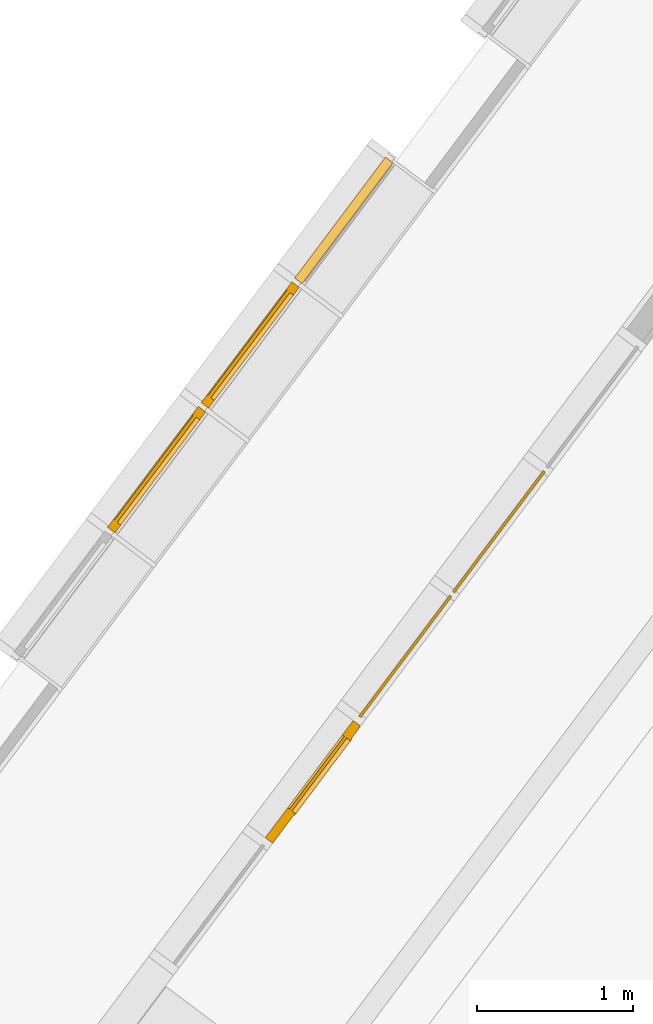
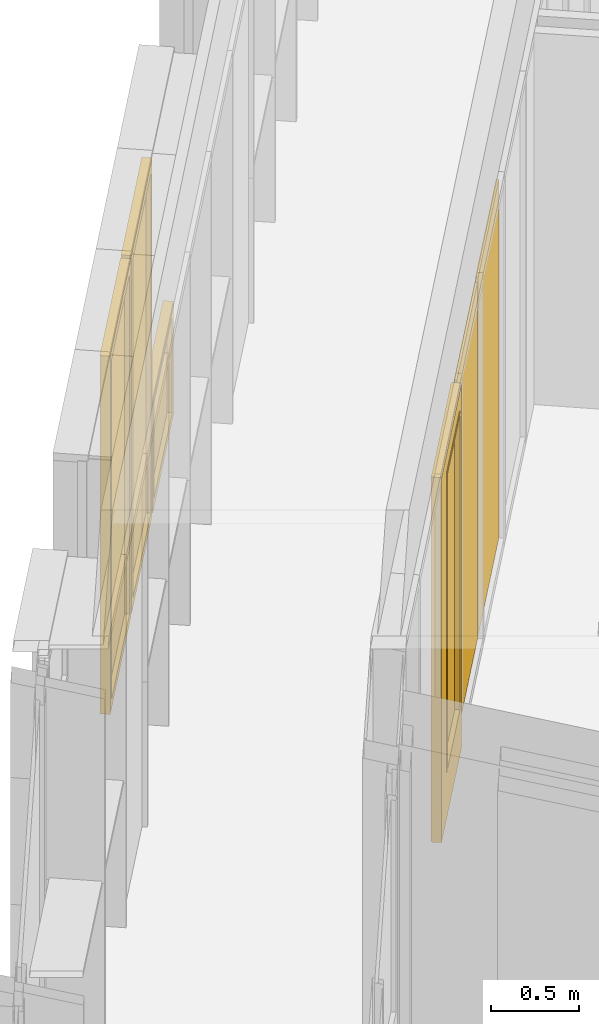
# One storey, part 189 of 243: 5 windows, 1 door, 2 elements without a shape of their own.
"""IFC2X3 building model written with IfcOpenShell, lengths in metres."""

from ifc_helpers import new_model, entity, si_unit, converted_unit, derived_unit, direction, frame, origin, origin_2d_with_axis, place, context, subcontext, project, spatial, rectangle, extrude, faceted_brep, source, transform, mapped, material, material_list, type_object, type_shapes, element, aggregate, save


model = new_model("IFC2X3")

# Units and contexts
model_context = context("Model", 3, precision=1e-05, world=origin(), true_north=direction((6.123031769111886e-17, 1.0)))
body_context = subcontext(model_context, "Body", "Model", "MODEL_VIEW")
ifc_project = project(units=[si_unit("LENGTHUNIT", "METRE"), si_unit("AREAUNIT", "SQUARE_METRE"), si_unit("VOLUMEUNIT", "CUBIC_METRE"), converted_unit("PLANEANGLEUNIT", "DEGREE", entity("IfcRatioMeasure", 0.017453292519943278), si_unit("PLANEANGLEUNIT", "RADIAN"), dimensions=[0, 0, 0, 0, 0, 0, 0]), si_unit("MASSUNIT", "GRAM", prefix="KILO"), derived_unit("MASSDENSITYUNIT", [(si_unit("MASSUNIT", "GRAM", prefix="KILO"), 1), (si_unit("LENGTHUNIT", "METRE"), -3)]), derived_unit("IONCONCENTRATIONUNIT", [(si_unit("MASSUNIT", "GRAM", prefix="KILO"), 1), (si_unit("LENGTHUNIT", "METRE"), -3)]), derived_unit("MOMENTOFINERTIAUNIT", [(si_unit("LENGTHUNIT", "METRE"), 4)]), si_unit("TIMEUNIT", "SECOND"), si_unit("FREQUENCYUNIT", "HERTZ"), si_unit("THERMODYNAMICTEMPERATUREUNIT", "DEGREE_CELSIUS"), derived_unit("THERMALTRANSMITTANCEUNIT", [(si_unit("MASSUNIT", "GRAM", prefix="KILO"), 1), (si_unit("THERMODYNAMICTEMPERATUREUNIT", "KELVIN"), -1), (si_unit("TIMEUNIT", "SECOND"), -3)]), derived_unit("THERMALCONDUCTANCEUNIT", [(si_unit("MASSUNIT", "GRAM", prefix="KILO"), 1), (si_unit("THERMODYNAMICTEMPERATUREUNIT", "KELVIN"), -1), (si_unit("TIMEUNIT", "SECOND"), -3), (si_unit("LENGTHUNIT", "METRE"), 1)]), derived_unit("VOLUMETRICFLOWRATEUNIT", [(si_unit("LENGTHUNIT", "METRE"), 3), (si_unit("TIMEUNIT", "SECOND"), -1)]), derived_unit("MASSFLOWRATEUNIT", [(si_unit("MASSUNIT", "GRAM", prefix="KILO"), 1), (si_unit("TIMEUNIT", "SECOND"), -1)]), derived_unit("ROTATIONALFREQUENCYUNIT", [(si_unit("TIMEUNIT", "SECOND"), -1)]), si_unit("ELECTRICCURRENTUNIT", "AMPERE"), si_unit("ELECTRICVOLTAGEUNIT", "VOLT"), si_unit("POWERUNIT", "WATT"), si_unit("FORCEUNIT", "NEWTON", prefix="KILO"), si_unit("ILLUMINANCEUNIT", "LUX"), si_unit("LUMINOUSFLUXUNIT", "LUMEN"), si_unit("LUMINOUSINTENSITYUNIT", "CANDELA"), derived_unit("USERDEFINED", [(si_unit("MASSUNIT", "GRAM", prefix="KILO"), -1), (si_unit("LENGTHUNIT", "METRE"), -2), (si_unit("TIMEUNIT", "SECOND"), 3), (si_unit("LUMINOUSFLUXUNIT", "LUMEN"), 1)]), derived_unit("USERDEFINED", [(si_unit("MASSUNIT", "GRAM", prefix="KILO"), 1), (si_unit("TIMEUNIT", "SECOND"), -3), (si_unit("LENGTHUNIT", "METRE"), 3), (si_unit("ELECTRICCURRENTUNIT", "AMPERE"), -2)]), derived_unit("SOUNDPOWERUNIT", [(si_unit("MASSUNIT", "GRAM", prefix="KILO"), 1), (si_unit("TIMEUNIT", "SECOND"), -3), (si_unit("LENGTHUNIT", "METRE"), 2)]), derived_unit("SOUNDPRESSUREUNIT", [(si_unit("MASSUNIT", "GRAM", prefix="KILO"), 1), (si_unit("LENGTHUNIT", "METRE"), -1), (si_unit("TIMEUNIT", "SECOND"), -2)]), derived_unit("LINEARVELOCITYUNIT", [(si_unit("LENGTHUNIT", "METRE"), 1), (si_unit("TIMEUNIT", "SECOND"), -1)]), si_unit("PRESSUREUNIT", "PASCAL"), derived_unit("USERDEFINED", [(si_unit("MASSUNIT", "GRAM", prefix="KILO"), 1), (si_unit("LENGTHUNIT", "METRE"), -2), (si_unit("TIMEUNIT", "SECOND"), -2)]), derived_unit("LINEARFORCEUNIT", [(si_unit("MASSUNIT", "GRAM", prefix="KILO"), 1), (si_unit("TIMEUNIT", "SECOND"), -2)]), derived_unit("PLANARFORCEUNIT", [(si_unit("MASSUNIT", "GRAM", prefix="KILO"), 1), (si_unit("LENGTHUNIT", "METRE"), -1), (si_unit("TIMEUNIT", "SECOND"), -2)]), derived_unit("SPECIFICHEATCAPACITYUNIT", [(si_unit("THERMODYNAMICTEMPERATUREUNIT", "KELVIN"), -1), (si_unit("LENGTHUNIT", "METRE"), 2), (si_unit("TIMEUNIT", "SECOND"), -2)]), derived_unit("HEATINGVALUEUNIT", [(si_unit("LENGTHUNIT", "METRE"), 2), (si_unit("TIMEUNIT", "SECOND"), -2)]), derived_unit("VAPORPERMEABILITYUNIT", [(si_unit("LENGTHUNIT", "METRE"), -1), (si_unit("TIMEUNIT", "SECOND"), 1)]), derived_unit("DYNAMICVISCOSITYUNIT", [(si_unit("MASSUNIT", "GRAM", prefix="KILO"), 1), (si_unit("TIMEUNIT", "SECOND"), -1), (si_unit("LENGTHUNIT", "METRE"), -1)]), derived_unit("THERMALEXPANSIONCOEFFICIENTUNIT", [(si_unit("THERMODYNAMICTEMPERATUREUNIT", "KELVIN"), -1)]), derived_unit("MODULUSOFELASTICITYUNIT", [(si_unit("MASSUNIT", "GRAM", prefix="KILO"), 1), (si_unit("LENGTHUNIT", "METRE"), -1), (si_unit("TIMEUNIT", "SECOND"), -2)]), derived_unit("ISOTHERMALMOISTURECAPACITYUNIT", [(si_unit("LENGTHUNIT", "METRE"), 3), (si_unit("MASSUNIT", "GRAM", prefix="KILO"), -1)]), derived_unit("MOISTUREDIFFUSIVITYUNIT", [(si_unit("TIMEUNIT", "SECOND"), -1), (si_unit("LENGTHUNIT", "METRE"), 2)])], contexts=[model_context])

# Site, building, storey
site_placement = place(None, frame((0.0, 0.0, 235.0), z_axis=(0.0, 0.0, 1.0), x_axis=(-0.7996477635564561, 0.6004693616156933, 0.0)))
site = spatial("IfcSite", under=ifc_project, at=site_placement, Name="Default", CompositionType="ELEMENT")
building_placement = place(site_placement, origin())
building = spatial("IfcBuilding", under=site, at=building_placement, CompositionType="ELEMENT")
storey_placement = place(building_placement, origin())
storey = spatial("IfcBuildingStorey", under=building, at=storey_placement, Name="P0- Escola", CompositionType="ELEMENT", Elevation=0.0)

# Curtain wall, windows, door
curtain_wall_type_1 = type_object("IfcCurtainWallType", Name="Muro cortina:MC- INT- a1", PredefinedType="NOTDEFINED")
curtain_wall_1_placement = place(storey_placement, origin())
curtain_wall_1 = element("IfcCurtainWall", 1, at=curtain_wall_1_placement, inside=storey, type_object=curtain_wall_type_1, Name="Muro cortina:MC- INT- a1", ObjectType="Muro cortina:MC- INT- a1")
ifc_material_1 = material(Name="_Vidre")
window_style_1 = type_object("IfcWindowStyle", Name="MC- Fusta- vidre fix:MC- Fusta- vidre fix", ConstructionType="NOTDEFINED", OperationType="NOTDEFINED", ParameterTakesPrecedence=False, Sizeable=False, material=ifc_material_1)
shared_shape_1 = source(origin(), body_context, "Body", "SweptSolid", [
    extrude(rectangle(XDim=0.9699999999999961, YDim=0.015999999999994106, at=origin_2d_with_axis()), frame((0.0, 0.0, 0.0), z_axis=(0.0, 0.0, 1.0), x_axis=(-1.0, 0.0, 0.0)), (0.0, 0.0, 1.0), 2.475),
])
type_shapes(window_style_1, [shared_shape_1])
window_1_placement = place(curtain_wall_1_placement, frame((47.32014768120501, -27.915189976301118, 0.045000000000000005), z_axis=(0.0, 0.0, 1.0), x_axis=(0.0, -1.0, 0.0)))
window_1 = element("IfcWindow", 2, at=window_1_placement, type_object=window_style_1, material=ifc_material_1, Name="MC- Fusta- vidre fix:MC- Fusta- vidre fix", ObjectType="MC- Fusta- vidre fix:MC- Fusta- vidre fix", OverallHeight=2.475, OverallWidth=0.9699999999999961, context=body_context, shape_type="MappedRepresentation", body=[
    mapped(shared_shape_1, transform((0.0, 0.0, 0.0), scale=1.0)),
])
ifc_material_2 = material(Name="_Fusta massisa- T1")
ifc_material_list_1 = material_list([ifc_material_2, ifc_material_1])
door_style = type_object("IfcDoorStyle", Name="MC- Fusta- conjunt porta:MC- Fusta- conjunt Porta aules", ConstructionType="NOTDEFINED", OperationType="NOTDEFINED", ParameterTakesPrecedence=False, Sizeable=False, material=ifc_material_list_1)
shared_shape_2 = source(origin(), body_context, "Body", "Brep", [
    faceted_brep([(-0.24500000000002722, -0.04499999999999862, 2.3950000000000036), (-0.24500000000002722, -0.014999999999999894, 2.3950000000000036), (-0.24500000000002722, -0.01499999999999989, 0.3299999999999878), (-0.24500000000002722, -0.04499999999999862, 0.3299999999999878), (0.37000000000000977, -0.01499999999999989, 0.3299999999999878), (0.37000000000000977, -0.04499999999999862, 0.3299999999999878), (0.37000000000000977, -0.01499999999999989, 2.3950000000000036), (0.37000000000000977, -0.04499999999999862, 2.3950000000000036), (-0.23000000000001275, -0.014999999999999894, 2.380000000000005), (-0.23000000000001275, -0.014999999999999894, 0.3449999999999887), (0.3549999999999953, -0.014999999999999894, 0.3449999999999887), (0.3549999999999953, -0.014999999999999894, 2.380000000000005), (-0.23000000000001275, -0.04499999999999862, 2.380000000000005), (0.3549999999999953, -0.04499999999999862, 2.380000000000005), (0.3549999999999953, -0.04499999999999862, 0.3449999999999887), (-0.23000000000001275, -0.04499999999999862, 0.3449999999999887)], [[[0, 1, 2, 3]], [[3, 2, 4, 5]], [[5, 4, 6, 7]], [[8, 9, 10, 11], [1, 6, 4, 2]], [[12, 13, 14, 15], [0, 3, 5, 7]], [[15, 9, 8, 12]], [[14, 10, 9, 15]], [[13, 11, 10, 14]], [[7, 6, 1, 0]], [[12, 8, 11, 13]]], outer=[[True], [True], [True], [False, True], [False, True], [True], [True], [True], [True], [True]]),
    faceted_brep([(-0.4399999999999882, 0.01999999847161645, 0.0), (0.4399999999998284, 0.019999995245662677, 0.0), (0.4399999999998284, -0.010000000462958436, 0.0), (0.4549999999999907, -0.010000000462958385, 0.0), (0.4549999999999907, -0.0399999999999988, 0.0), (-0.45500000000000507, -0.03999999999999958, 0.0), (-0.45500000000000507, -0.010000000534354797, 0.0), (-0.4399999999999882, -0.010000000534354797, 0.0), (-0.45500000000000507, -0.03999999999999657, 2.5050000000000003), (0.4549999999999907, -0.03999999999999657, 2.5050000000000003), (-0.2450000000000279, -0.039999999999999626, 0.3300000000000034), (-0.2450000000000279, -0.040000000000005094, 2.394999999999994), (0.3700000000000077, -0.0399999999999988, 2.394999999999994), (0.3700000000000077, -0.039999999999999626, 0.3300000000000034), (-0.4550000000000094, -0.010000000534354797, 2.5050000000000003), (0.4549999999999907, -0.010000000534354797, 2.5050000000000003), (-0.4399999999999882, 0.019999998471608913, 2.4899999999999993), (-0.4399999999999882, -0.010000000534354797, 2.4899999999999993), (0.4399999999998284, -0.010000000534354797, 2.4899999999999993), (0.4399999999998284, 0.019999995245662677, 2.4899999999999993), (0.3549999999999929, 0.019999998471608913, 0.3450000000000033), (0.3549999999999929, 0.019999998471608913, 2.379999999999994), (-0.2300000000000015, 0.019999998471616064, 2.379999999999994), (-0.2300000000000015, 0.019999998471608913, 0.3450000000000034), (-0.2300000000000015, 0.005000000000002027, 0.3450000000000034), (0.3549999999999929, 0.005000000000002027, 0.3450000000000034), (-0.2300000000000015, 0.005000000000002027, 2.379999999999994), (0.3549999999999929, 0.004999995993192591, 2.379999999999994), (0.3700000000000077, 0.005000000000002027, 0.3300000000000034), (0.3700000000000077, 0.005000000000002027, 2.394999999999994), (-0.24500000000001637, 0.005000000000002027, 2.394999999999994), (-0.2450000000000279, 0.005000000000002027, 0.3300000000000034), (-0.24500000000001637, 0.004999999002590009, 0.3300000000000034), (-0.24500000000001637, 0.004999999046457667, 2.394999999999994), (0.3549999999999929, 0.019999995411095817, 2.379999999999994), (-0.2300000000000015, 0.004999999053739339, 2.379999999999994), (0.3700000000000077, 0.004999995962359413, 2.394999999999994)], [[[0, 1, 2, 3, 4, 5, 6, 7]], [[8, 5, 4, 9], [10, 11, 12, 13]], [[8, 14, 6, 5]], [[15, 9, 4, 3]], [[16, 0, 7, 17]], [[14, 15, 3, 2, 18, 17, 7, 6]], [[18, 2, 1, 19]], [[20, 21, 22, 23], [16, 19, 1, 0]], [[23, 24, 25, 20]], [[23, 22, 26, 24]], [[25, 27, 21, 20]], [[24, 26, 27, 25], [28, 29, 30, 31]], [[13, 28, 32, 10]], [[31, 33, 11, 10]], [[13, 12, 29, 28]], [[9, 15, 14, 8]], [[17, 18, 19, 16]], [[34, 27, 35, 22]], [[11, 30, 36, 12]]], outer=[[True], [True, False], [True], [True], [True], [True], [True], [False, True], [True], [True], [True], [False, True], [True], [True], [True], [True], [True], [True], [True]]),
    faceted_brep([(0.3700000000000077, 0.004999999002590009, 0.3300000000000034), (0.3700000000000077, -0.0149999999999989, 0.3300000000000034), (-0.24500000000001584, -0.014999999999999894, 0.3300000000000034), (-0.24500000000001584, 0.004999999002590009, 0.3300000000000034), (0.3700000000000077, 0.004999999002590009, 2.3950000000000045), (-0.24500000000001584, 0.004999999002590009, 2.3950000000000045), (-0.24500000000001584, -0.014999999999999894, 2.3950000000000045), (0.3700000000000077, -0.0149999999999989, 2.3950000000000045)], [[[0, 1, 2, 3]], [[4, 0, 3, 5]], [[5, 3, 2, 6]], [[6, 2, 1, 7]], [[7, 1, 0, 4]], [[4, 5, 6, 7]]]),
    faceted_brep([(-0.46500000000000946, -0.03999999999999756, 0.0), (-0.46500000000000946, -0.035999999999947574, 0.0), (-0.469999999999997, -0.035999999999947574, 0.0), (-0.469999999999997, 0.016000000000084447, 0.0), (-0.46500000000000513, 0.016000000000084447, 0.0), (-0.46500000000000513, 0.02000000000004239, 0.0), (-0.44000000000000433, 0.02000000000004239, 0.0), (-0.44000000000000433, -0.00999999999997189, 0.0), (-0.4550000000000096, -0.00999999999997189, 0.0), (-0.4550000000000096, -0.03999999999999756, 0.0), (-0.45500000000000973, -0.03999999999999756, 2.5050000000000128), (0.45500000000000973, -0.03999999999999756, 2.5050000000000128), (0.45500000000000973, -0.03999999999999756, 0.0), (0.46500000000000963, -0.03999999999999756, 0.0), (0.46500000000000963, -0.03999999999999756, 2.5150000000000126), (-0.4650000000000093, -0.03999999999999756, 2.515000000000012), (-0.4550000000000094, -0.00999999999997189, 2.5050000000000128), (-0.4400000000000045, -0.00999999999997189, 2.4900000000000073), (0.4400000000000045, -0.00999999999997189, 2.4900000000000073), (0.4400000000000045, -0.00999999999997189, 0.0), (0.45500000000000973, -0.00999999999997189, 0.0), (0.45500000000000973, -0.00999999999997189, 2.5050000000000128), (-0.4400000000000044, 0.02000000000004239, 2.4900000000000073), (-0.4650000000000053, 0.02000000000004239, 2.515000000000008), (0.4650000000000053, 0.02000000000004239, 2.515000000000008), (0.4650000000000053, 0.02000000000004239, 0.0), (0.4400000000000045, 0.02000000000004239, 0.0), (0.4400000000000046, 0.02000000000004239, 2.4900000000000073), (-0.46500000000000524, 0.016000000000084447, 2.515000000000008), (-0.4699999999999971, 0.016000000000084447, 2.52), (0.4699999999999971, 0.016000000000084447, 2.52), (0.4699999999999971, 0.016000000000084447, 0.0), (0.4650000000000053, 0.016000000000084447, 0.0), (0.4650000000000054, 0.016000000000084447, 2.515000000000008), (-0.46999999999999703, -0.035999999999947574, 2.52), (-0.46500000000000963, -0.035999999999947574, 2.5150000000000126), (0.46500000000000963, -0.035999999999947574, 2.5150000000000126), (0.46500000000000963, -0.035999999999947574, 0.0), (0.4699999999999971, -0.035999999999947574, 0.0), (0.46999999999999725, -0.035999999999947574, 2.52)], [[[0, 1, 2, 3, 4, 5, 6, 7, 8, 9]], [[9, 10, 11, 12, 13, 14, 15, 0]], [[8, 16, 10, 9]], [[7, 17, 18, 19, 20, 21, 16, 8]], [[6, 22, 17, 7]], [[5, 23, 24, 25, 26, 27, 22, 6]], [[4, 28, 23, 5]], [[3, 29, 30, 31, 32, 33, 28, 4]], [[2, 34, 29, 3]], [[1, 35, 36, 37, 38, 39, 34, 2]], [[0, 15, 35, 1]], [[14, 13, 37, 36]], [[13, 12, 20, 19, 26, 25, 32, 31, 38, 37]], [[21, 20, 12, 11]], [[27, 26, 19, 18]], [[33, 32, 25, 24]], [[39, 38, 31, 30]], [[16, 21, 11, 10]], [[22, 27, 18, 17]], [[28, 33, 24, 23]], [[34, 39, 30, 29]], [[15, 14, 36, 35]]]),
])
type_shapes(door_style, [shared_shape_2])
door_placement = place(curtain_wall_1_placement, frame((47.320147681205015, -25.91518997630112, 0.0), z_axis=(0.0, 0.0, 1.0), x_axis=(0.0, -1.0, 0.0)))
door = element("IfcDoor", 3, at=door_placement, type_object=door_style, material=ifc_material_list_1, Name="MC- Fusta- conjunt porta:MC- Fusta- conjunt Porta aules", ObjectType="MC- Fusta- conjunt porta:MC- Fusta- conjunt Porta aules", OverallHeight=2.52, OverallWidth=0.9399999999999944, context=body_context, shape_type="MappedRepresentation", body=[
    mapped(shared_shape_2, transform((0.0, 0.0, 0.0), scale=1.0)),
])
window_style_2 = type_object("IfcWindowStyle", Name="MC- Fusta- vidre fix:MC- Fusta- vidre fix", ConstructionType="NOTDEFINED", OperationType="NOTDEFINED", ParameterTakesPrecedence=False, Sizeable=False, material=ifc_material_1)
shared_shape_3 = source(origin(), body_context, "Body", "SweptSolid", [
    extrude(rectangle(XDim=0.9699999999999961, YDim=0.015999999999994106, at=origin_2d_with_axis()), frame((0.0, 0.0, 0.0), z_axis=(0.0, 0.0, 1.0), x_axis=(-1.0, 0.0, 0.0)), (0.0, 0.0, 1.0), 2.46),
])
type_shapes(window_style_2, [shared_shape_3])
window_2_placement = place(curtain_wall_1_placement, frame((47.320147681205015, -26.915189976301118, 0.045000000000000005), z_axis=(0.0, 0.0, 1.0), x_axis=(0.0, -1.0, 0.0)))
window_2 = element("IfcWindow", 4, at=window_2_placement, type_object=window_style_2, material=ifc_material_1, Name="MC- Fusta- vidre fix:MC- Fusta- vidre fix", ObjectType="MC- Fusta- vidre fix:MC- Fusta- vidre fix", OverallHeight=2.46, OverallWidth=0.9699999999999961, context=body_context, shape_type="MappedRepresentation", body=[
    mapped(shared_shape_3, transform((0.0, 0.0, 0.0), scale=1.0)),
])
aggregate(curtain_wall_1, [door, window_2, window_1])

# Curtain wall, windows
curtain_wall_type_2 = type_object("IfcCurtainWallType", Name="Muro cortina:MC- EXT- MC5", PredefinedType="NOTDEFINED")
curtain_wall_2_placement = place(storey_placement, origin())
curtain_wall_2 = element("IfcCurtainWall", 5, at=curtain_wall_2_placement, inside=storey, type_object=curtain_wall_type_2, Name="Muro cortina:MC- EXT- MC5", ObjectType="Muro cortina:MC- EXT- MC5")
ifc_material_3 = material(Name="_Alumini- T1- Perfil")
ifc_material_list_2 = material_list([ifc_material_1, ifc_material_3])
window_style_3 = type_object("IfcWindowStyle", Name="MC- Alu- Conjunt vidre fix- 62x60 cm:MC- Alu- Conjunt vidre fix- 62x60 cm", ConstructionType="NOTDEFINED", OperationType="NOTDEFINED", ParameterTakesPrecedence=False, Sizeable=False, material=ifc_material_list_2)
shared_shape_4 = source(origin(), body_context, "Body", "Brep", [
    faceted_brep([(-0.43619328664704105, -0.007600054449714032, 0.048806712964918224), (0.43619328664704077, -0.007600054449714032, 0.048806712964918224), (0.43619328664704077, -0.03160022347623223, 0.048806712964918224), (-0.43619328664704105, -0.03160022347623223, 0.048806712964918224), (-0.43619328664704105, -0.007600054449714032, 2.422449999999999), (0.43619328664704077, -0.007600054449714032, 2.422449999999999), (0.43619328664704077, -0.03160022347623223, 2.422449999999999), (-0.43619328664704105, -0.03160022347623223, 2.422449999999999)], [[[0, 1, 2, 3]], [[4, 5, 1, 0]], [[5, 6, 2, 1]], [[6, 7, 3, 2]], [[7, 4, 0, 3]], [[4, 7, 6, 5]]]),
    faceted_brep([(-0.4849999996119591, -0.05999999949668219, 2.471449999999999), (-0.4849999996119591, 0.0, 2.471449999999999), (-0.4849999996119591, 0.0, 0.0), (-0.48499999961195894, -0.05999999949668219, 0.0), (-0.4221931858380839, 0.0, 2.408643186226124), (-0.4221931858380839, 0.0, 0.06280681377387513), (0.42219318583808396, 0.0, 0.06280681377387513), (0.422193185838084, 0.0, 2.408643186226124), (0.4849999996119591, 0.0, 2.471449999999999), (0.4849999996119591, 0.0, 0.0), (0.48499999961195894, -0.05999999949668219, 0.0), (0.4849999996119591, -0.05999999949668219, 2.471449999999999), (0.42219603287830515, -0.05999999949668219, 2.408646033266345), (0.42219603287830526, -0.05999999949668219, 0.06280396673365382), (-0.42219603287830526, -0.05999999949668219, 0.06280396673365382), (-0.42219603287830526, -0.05999999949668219, 2.4086460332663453), (-0.42219603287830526, -0.03160022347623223, 2.4086460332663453), (-0.4221960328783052, -0.03160022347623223, 0.06280396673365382), (0.4221960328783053, -0.03160022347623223, 0.06280396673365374), (0.42219603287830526, -0.03160022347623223, 2.4086460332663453), (0.43619328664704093, -0.03160022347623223, 2.422643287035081), (0.43619328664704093, -0.03160022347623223, 0.048806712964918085), (-0.4361932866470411, -0.03160022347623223, 0.04880671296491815), (-0.43619328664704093, -0.03160022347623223, 2.422643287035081), (-0.43619328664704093, -0.007600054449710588, 2.422643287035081), (-0.4361932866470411, -0.007600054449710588, 0.04880671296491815), (0.43619328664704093, -0.007600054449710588, 0.048806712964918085), (0.43619328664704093, -0.007600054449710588, 2.422643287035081), (0.42219318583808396, -0.007600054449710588, 2.408643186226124), (0.42219318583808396, -0.007600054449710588, 0.06280681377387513), (-0.42219318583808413, -0.007600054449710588, 0.06280681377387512), (-0.4221931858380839, -0.007600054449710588, 2.408643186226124)], [[[0, 1, 2, 3]], [[4, 5, 6, 7], [8, 9, 2, 1]], [[3, 2, 9, 10]], [[0, 3, 10, 11], [12, 13, 14, 15]], [[16, 15, 14, 17]], [[17, 14, 13, 18]], [[16, 17, 18, 19], [20, 21, 22, 23]], [[24, 23, 22, 25]], [[25, 22, 21, 26]], [[24, 25, 26, 27], [28, 29, 30, 31]], [[4, 31, 30, 5]], [[5, 30, 29, 6]], [[10, 9, 8, 11]], [[18, 13, 12, 19]], [[26, 21, 20, 27]], [[6, 29, 28, 7]], [[11, 8, 1, 0]], [[19, 12, 15, 16]], [[27, 20, 23, 24]], [[7, 28, 31, 4]]], outer=[[True], [False, True], [True], [True, False], [True], [True], [False, True], [True], [True], [True, False], [True], [True], [True], [True], [True], [True], [True], [True], [True], [True]]),
])
type_shapes(window_style_3, [shared_shape_4])
window_3_placement = place(curtain_wall_2_placement, frame((49.345147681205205, -26.91519175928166, 0.03229999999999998), z_axis=(0.0, 0.0, 1.0), x_axis=(0.0, -1.0, 0.0)))
window_3 = element("IfcWindow", 6, at=window_3_placement, type_object=window_style_3, material=ifc_material_list_2, Name="MC- Alu- Conjunt vidre fix- 62x60 cm:MC- Alu- Conjunt vidre fix- 62x60 cm", ObjectType="MC- Alu- Conjunt vidre fix- 62x60 cm:MC- Alu- Conjunt vidre fix- 62x60 cm", OverallHeight=2.471449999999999, OverallWidth=0.9699999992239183, context=body_context, shape_type="MappedRepresentation", body=[
    mapped(shared_shape_4, transform((0.0, 0.0, 0.0), scale=1.0)),
])
window_4_placement = place(curtain_wall_2_placement, frame((49.345147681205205, -27.91519175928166, 0.03229999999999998), z_axis=(0.0, 0.0, 1.0), x_axis=(0.0, -1.0, 0.0)))
window_4 = element("IfcWindow", 7, at=window_4_placement, type_object=window_style_3, material=ifc_material_list_2, Name="MC- Alu- Conjunt vidre fix- 62x60 cm:MC- Alu- Conjunt vidre fix- 62x60 cm", ObjectType="MC- Alu- Conjunt vidre fix- 62x60 cm:MC- Alu- Conjunt vidre fix- 62x60 cm", OverallHeight=2.471449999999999, OverallWidth=0.9699999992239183, context=body_context, shape_type="MappedRepresentation", body=[
    mapped(shared_shape_4, transform((0.0, 0.0, 0.0), scale=1.0)),
])
window_style_4 = type_object("IfcWindowStyle", Name="MC- Alu- Conjunt vidre fix- 62x60 cm:MC- Alu- Conjunt vidre fix- 62x60 cm", ConstructionType="NOTDEFINED", OperationType="NOTDEFINED", ParameterTakesPrecedence=False, Sizeable=False, material=ifc_material_list_2)
shared_shape_5 = source(origin(), body_context, "Body", "Brep", [
    faceted_brep([(-0.43619328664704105, -0.007600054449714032, 0.048806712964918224), (0.43619328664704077, -0.007600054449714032, 0.048806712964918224), (0.43619328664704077, -0.03160022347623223, 0.048806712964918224), (-0.43619328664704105, -0.03160022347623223, 0.048806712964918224), (-0.43619328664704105, -0.007600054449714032, 0.7387000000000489), (0.43619328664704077, -0.007600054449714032, 0.7387000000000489), (0.43619328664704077, -0.03160022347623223, 0.7387000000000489), (-0.43619328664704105, -0.03160022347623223, 0.7387000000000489)], [[[0, 1, 2, 3]], [[4, 5, 1, 0]], [[5, 6, 2, 1]], [[6, 7, 3, 2]], [[7, 4, 0, 3]], [[4, 7, 6, 5]]]),
    faceted_brep([(-0.4849999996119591, -0.05999999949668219, 0.7877000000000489), (-0.4849999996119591, 0.0, 0.7877000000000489), (-0.4849999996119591, 0.0, 0.0), (-0.4849999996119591, -0.05999999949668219, 0.0), (-0.422193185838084, 0.0, 0.7248931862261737), (-0.4221931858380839, 0.0, 0.06280681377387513), (0.42219318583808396, 0.0, 0.06280681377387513), (0.42219318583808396, 0.0, 0.7248931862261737), (0.4849999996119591, 0.0, 0.7877000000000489), (0.4849999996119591, 0.0, 0.0), (0.4849999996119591, -0.05999999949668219, 0.0), (0.4849999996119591, -0.05999999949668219, 0.7877000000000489), (0.4221960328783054, -0.05999999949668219, 0.7248960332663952), (0.4221960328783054, -0.05999999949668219, 0.0628039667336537), (-0.4221960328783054, -0.05999999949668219, 0.0628039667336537), (-0.4221960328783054, -0.05999999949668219, 0.7248960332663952), (-0.4221960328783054, -0.03160022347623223, 0.7248960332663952), (-0.4221960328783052, -0.03160022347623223, 0.06280396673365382), (0.4221960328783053, -0.03160022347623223, 0.06280396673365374), (0.42219603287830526, -0.03160022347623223, 0.7248960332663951), (0.43619328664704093, -0.03160022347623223, 0.7388932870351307), (0.43619328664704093, -0.03160022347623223, 0.048806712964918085), (-0.43619328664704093, -0.03160022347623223, 0.04880671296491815), (-0.43619328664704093, -0.03160022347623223, 0.7388932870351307), (-0.43619328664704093, -0.007600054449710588, 0.7388932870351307), (-0.43619328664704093, -0.007600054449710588, 0.04880671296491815), (0.43619328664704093, -0.007600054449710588, 0.048806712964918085), (0.43619328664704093, -0.007600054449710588, 0.7388932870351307), (0.42219318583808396, -0.007600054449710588, 0.7248931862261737), (0.42219318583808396, -0.007600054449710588, 0.06280681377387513), (-0.42219318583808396, -0.007600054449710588, 0.06280681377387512), (-0.42219318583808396, -0.007600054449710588, 0.7248931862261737)], [[[0, 1, 2, 3]], [[4, 5, 6, 7], [8, 9, 2, 1]], [[3, 2, 9, 10]], [[0, 3, 10, 11], [12, 13, 14, 15]], [[16, 15, 14, 17]], [[17, 14, 13, 18]], [[16, 17, 18, 19], [20, 21, 22, 23]], [[24, 23, 22, 25]], [[25, 22, 21, 26]], [[24, 25, 26, 27], [28, 29, 30, 31]], [[4, 31, 30, 5]], [[5, 30, 29, 6]], [[10, 9, 8, 11]], [[18, 13, 12, 19]], [[26, 21, 20, 27]], [[6, 29, 28, 7]], [[11, 8, 1, 0]], [[19, 12, 15, 16]], [[27, 20, 23, 24]], [[7, 28, 31, 4]]], outer=[[True], [False, True], [True], [True, False], [True], [True], [False, True], [True], [True], [True, False], [True], [True], [True], [True], [True], [True], [True], [True], [True], [True]]),
])
type_shapes(window_style_4, [shared_shape_5])
window_5_placement = place(curtain_wall_2_placement, frame((49.34514768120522, -28.915191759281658, 0.03229999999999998), z_axis=(0.0, 0.0, 1.0), x_axis=(0.0, -1.0, 0.0)))
window_5 = element("IfcWindow", 8, at=window_5_placement, type_object=window_style_4, material=ifc_material_list_2, Name="MC- Alu- Conjunt vidre fix- 62x60 cm:MC- Alu- Conjunt vidre fix- 62x60 cm", ObjectType="MC- Alu- Conjunt vidre fix- 62x60 cm:MC- Alu- Conjunt vidre fix- 62x60 cm", OverallHeight=0.7877000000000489, OverallWidth=0.9699999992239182, context=body_context, shape_type="MappedRepresentation", body=[
    mapped(shared_shape_5, transform((0.0, 0.0, 0.0), scale=1.0)),
])
aggregate(curtain_wall_2, [window_3, window_4, window_5])

save(model, "model.ifc")
